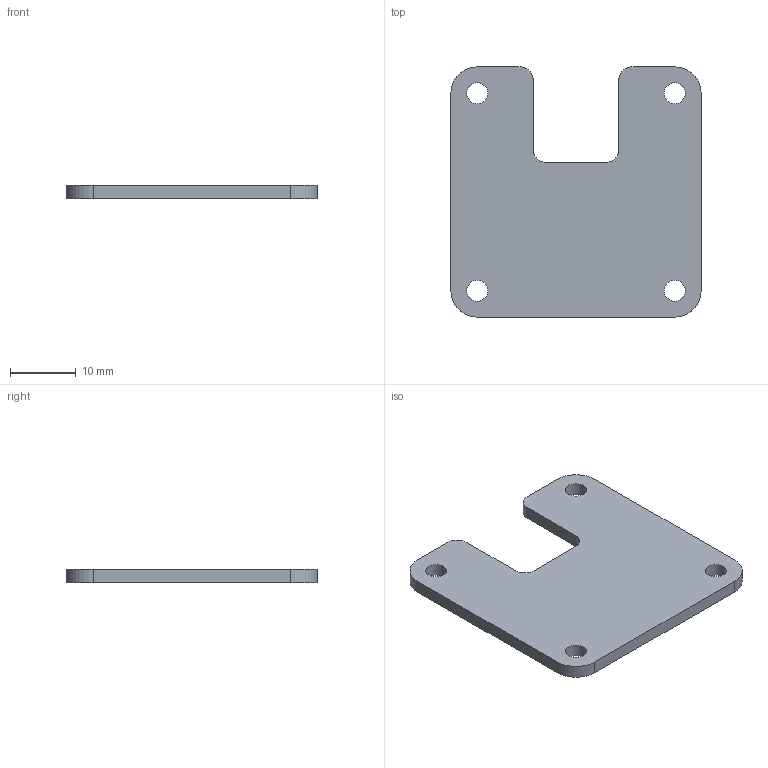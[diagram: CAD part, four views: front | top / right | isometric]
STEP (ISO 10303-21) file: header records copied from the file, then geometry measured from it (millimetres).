
FILE_DESCRIPTION(/* description */ (''),/* implementation_level */ '2;1');
FILE_NAME(/* name */ 'C:\Users\diederichbenedict\Dropbox\Dokumente\Promotion\PROJECTS\openUC2-CAD\INVENTOR\20_Cube_Insert_SEEED_Xiao_Sense_Camera_backplate.stp',/* time_stamp */ '2023-09-08T14:05:49+02:00',/* author */ ('diederichbenedict'),/* organization */ (''),/* preprocessor_version */ 'ST-DEVELOPER v18.1',/* originating_system */ 'Autodesk Inventor 2022',/* authorisation */ '');
FILE_SCHEMA (('AUTOMOTIVE_DESIGN { 1 0 10303 214 3 1 1 }'));
Length unit declared in the file: millimetre
Products named in the file (1): 20_Cube_Insert_SEEED_Xiao_Sense_Camera_backplate
Bounding box: 38 x 38 x 2 mm (x, y, z)
Volume: 2419.4 mm3; surface area: 2841.2 mm2
Topology: 1 solids, 1 shells, 22 faces, 60 edges, 40 vertices
Faces by surface type: cylinder 12, plane 10
Full cylindrical faces by diameter (mm): 3.2 x4
Entity records: 765 total; most frequent: DIRECTION 130, CARTESIAN_POINT 123, ORIENTED_EDGE 120, EDGE_CURVE 60, AXIS2_PLACEMENT_3D 47, VERTEX_POINT 40, LINE 36, VECTOR 36
